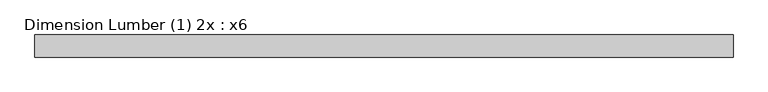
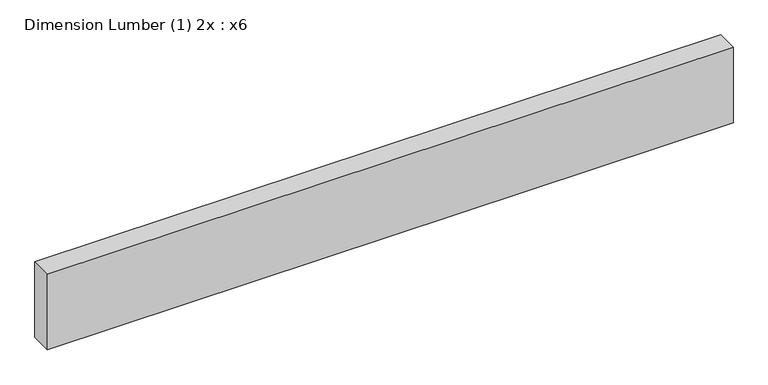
"""IFC4 building model written with IfcOpenShell, lengths in millimetres: beam geometry, Dimension Lumber (1) 2x : x6."""

from ifc_helpers import new_model, si_unit, frame, origin, place, context, project, spatial, polyline, outline, extrude, source, transform, mapped, element, save


def dimension_lumber_1_2x_x6_92016964(model_context):
    return source(origin(), model_context, "Body", "SweptSolid", [
        extrude(outline(polyline([(574.2575614, -19.05), (-628.1390981, -19.05), (-628.1390981, 19.05), (574.2575614, 19.05), (574.2575614, -19.05)])), frame((0.0, 0.0, -69.85), z_axis=(0.0, 0.0, 1.0), x_axis=(1.0, 0.0, 0.0)), (0.0, 0.0, 1.0), 139.7),
    ])


if __name__ == "__main__":
    model = new_model("IFC4")
    model_context = context("Model", 3, world=origin())
    ifc_project = project(units=[si_unit("LENGTHUNIT", "METRE", prefix="MILLI")], contexts=[model_context])
    site = spatial("IfcSite", under=ifc_project)
    building = spatial("IfcBuilding", under=site)
    placement = place(None, origin())
    dimension_lumber_1_2x_x6_shape = dimension_lumber_1_2x_x6_92016964(model_context)
    element("IfcBeam", 1, ObjectType="Dimension Lumber (1) 2x : x6", at=placement, inside=building, context=model_context, shape_type="MappedRepresentation", body=[
        mapped(dimension_lumber_1_2x_x6_shape, transform((0.0, 0.0, 0.0), x_axis=(1.0, 0.0, 0.0), y_axis=(0.0, 1.0, 0.0), z_axis=(0.0, 0.0, 1.0))),
    ])
    save(model, "model.ifc")
